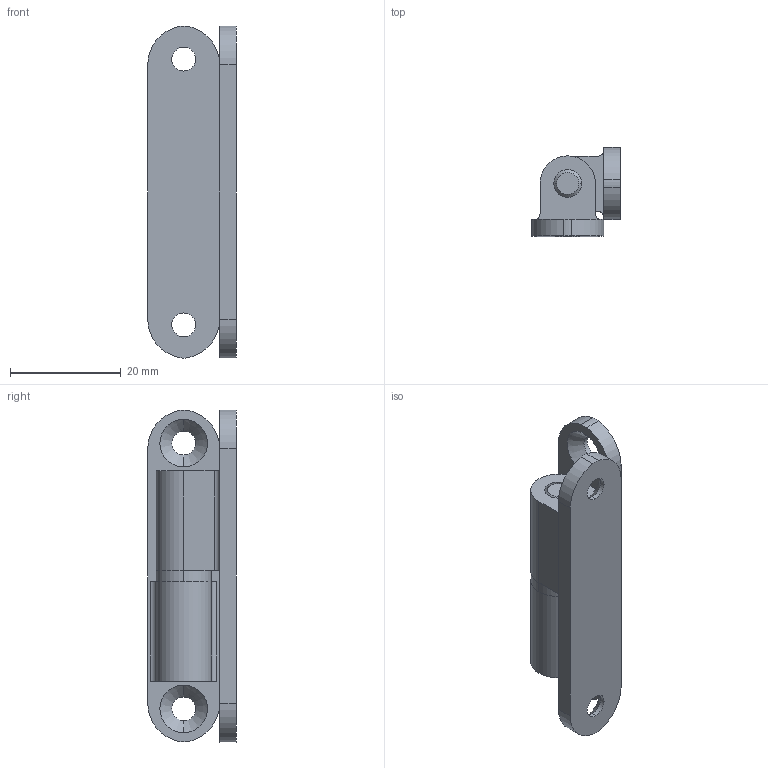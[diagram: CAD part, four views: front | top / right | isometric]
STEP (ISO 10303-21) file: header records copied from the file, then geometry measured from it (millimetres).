
FILE_DESCRIPTION (( 'STEP AP214' ), '1' );
FILE_NAME ('SK2-029-1.STEP', '2020-04-15T06:14:40', ( 'admin' ), ( 'Microsoft' ), 'SwSTEP 2.0', 'SolidWorks 2018', '' );
FILE_SCHEMA (( 'AUTOMOTIVE_DESIGN' ));
Length unit declared in the file: millimetre
Products named in the file (4): SK2-029-1; 2-029-1-F3; 2-029-1-F2; 2-029-1-F1
Assembly tree (3 placements, depth 2):
  SK2-029-1
    2-029-1-F1
    2-029-1-F2
    2-029-1-F3
Bounding box: 16 x 16 x 59.99 mm (x, y, z)
Volume: 8013.5 mm3; surface area: 6147.6 mm2
Topology: 4 solids, 4 shells, 68 faces, 162 edges, 104 vertices
Faces by surface type: cylinder 36, plane 20, cone 12
Entity records: 2185 total; most frequent: DIRECTION 394, CARTESIAN_POINT 340, ORIENTED_EDGE 324, EDGE_CURVE 162, AXIS2_PLACEMENT_3D 158, VERTEX_POINT 104, EDGE_LOOP 84, CIRCLE 84
